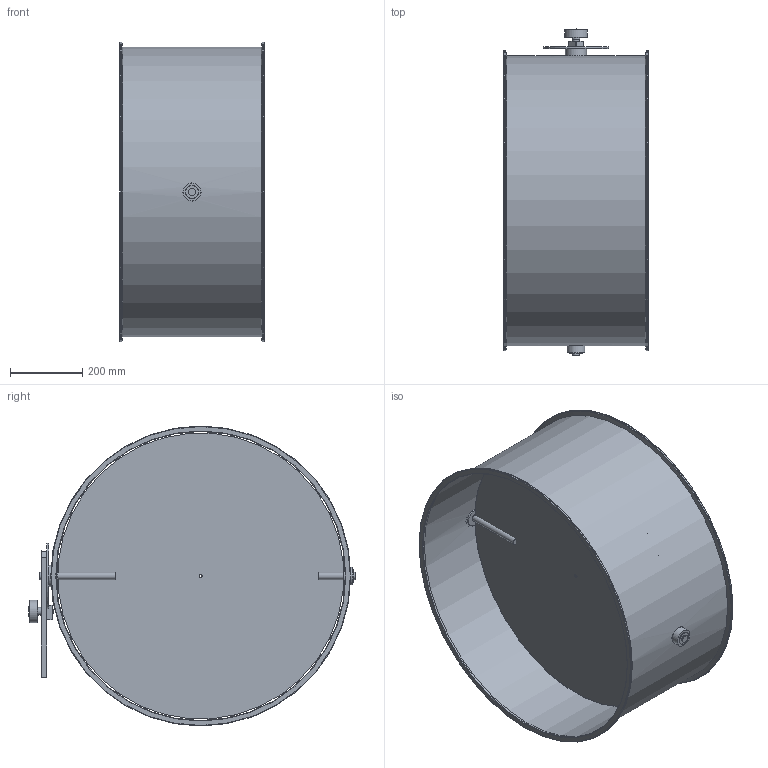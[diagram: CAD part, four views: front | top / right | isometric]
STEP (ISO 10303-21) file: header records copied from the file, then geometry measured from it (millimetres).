
FILE_DESCRIPTION(/* description */ (''),/* implementation_level */ '2;1');
FILE_NAME(/* name */ 'METU_Drosselklappe_Flansch_verzinkt_EA115-80B__800_L400_handbetaetigt.stp',/* time_stamp */ '2022-04-22T13:56:00+02:00',/* author */ (''),/* organization */ (''),/* preprocessor_version */ 'ST-DEVELOPER v11',/* originating_system */ 'SIEMENS UGS NX 6.0',/* authorisation */ '');
FILE_SCHEMA (('CONFIG_CONTROL_DESIGN'));
Length unit declared in the file: millimetre
Products named in the file (1): d.ga332Aq8sn
Bounding box: 400 x 902.49 x 830 mm (x, y, z)
Volume: 2892659.6 mm3; surface area: 3292719.6 mm2
Topology: 12 solids, 12 shells, 126 faces, 272 edges, 177 vertices
Faces by surface type: plane 42, cylinder 38, torus 24, bspline 18, sphere 2, cone 2
Full cylindrical faces by diameter (mm): 8 x8, 8.5 x1, 10 x1, 11 x1, 20 x5, 22 x1, 35 x3, 35.85 x2, 36 x2, 49 x1, 50 x2, 54 x1, 59 x1, 62 x1, 180 x1, 800 x1, 802.4 x1, 830 x2
Entity records: 4014 total; most frequent: CARTESIAN_POINT 1443, DIRECTION 490, ORIENTED_EDGE 430, AXIS2_PLACEMENT_3D 224, EDGE_CURVE 215, EDGE_LOOP 214, VERTEX_POINT 163, FACE_BOUND 156
